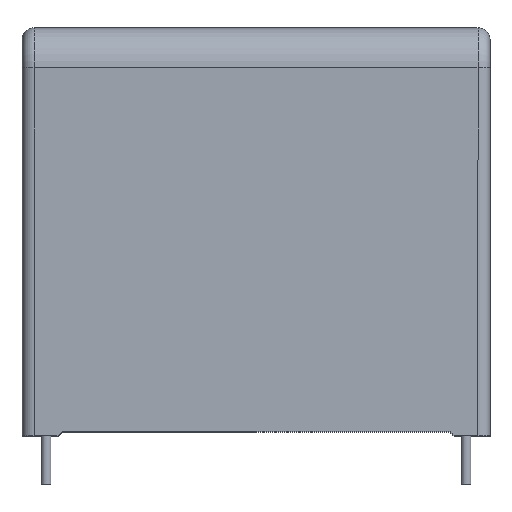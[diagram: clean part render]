
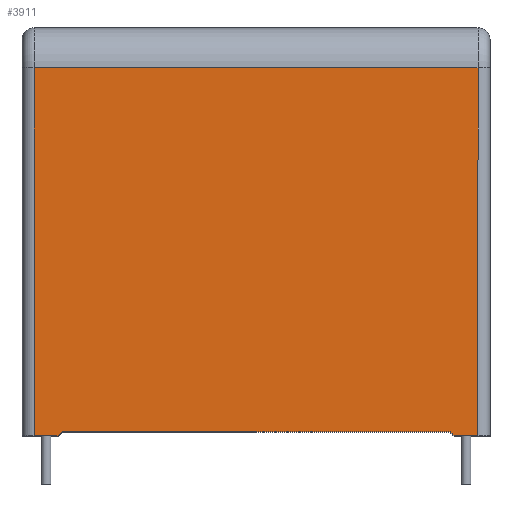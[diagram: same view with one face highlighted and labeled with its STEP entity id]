
A CAD part, top view. The second image highlights one B-rep face of the part: STEP entity #3911.
In plain terms, the highlighted planar face has unit normal (0, 0, 1).
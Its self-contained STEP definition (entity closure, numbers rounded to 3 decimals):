
#35 = DIRECTION ( 'NONE',  ( 0., -1., 0. ) ) ;
#73 = VERTEX_POINT ( 'NONE', #2864 ) ;
#176 = CARTESIAN_POINT ( 'NONE',  ( 24.25, 0.5, 18. ) ) ;
#190 = EDGE_LOOP ( 'NONE', ( #2507, #2511, #2521, #2529, #2534, #2537, #2552, #2555 ) ) ;
#358 = LINE ( 'NONE', #2895, #2072 ) ;
#410 = VECTOR ( 'NONE', #623, 1000. ) ;
#515 = LINE ( 'NONE', #2331, #410 ) ;
#623 = DIRECTION ( 'NONE',  ( 0., 1., 0. ) ) ;
#682 = LINE ( 'NONE', #4108, #4016 ) ;
#715 = VERTEX_POINT ( 'NONE', #3802 ) ;
#832 = VECTOR ( 'NONE', #2572, 1000. ) ;
#845 = VERTEX_POINT ( 'NONE', #3605 ) ;
#894 = PLANE ( 'NONE',  #3893 ) ;
#908 = VERTEX_POINT ( 'NONE', #1593 ) ;
#960 = CARTESIAN_POINT ( 'NONE',  ( 27.75, 46., 18. ) ) ;
#1100 = VECTOR ( 'NONE', #35, 1000. ) ;
#1329 = DIRECTION ( 'NONE',  ( -0.707, -0.707, 0. ) ) ;
#1473 = VERTEX_POINT ( 'NONE', #960 ) ;
#1588 = DIRECTION ( 'NONE',  ( -1., 0., 0. ) ) ;
#1593 = CARTESIAN_POINT ( 'NONE',  ( 24.75, 0., 18. ) ) ;
#1597 = LINE ( 'NONE', #2373, #3330 ) ;
#1613 = VERTEX_POINT ( 'NONE', #2470 ) ;
#1793 = VECTOR ( 'NONE', #3068, 1000. ) ;
#2031 = VERTEX_POINT ( 'NONE', #3714 ) ;
#2058 = EDGE_CURVE ( 'NONE', #715, #73, #1597, .T. ) ;
#2072 = VECTOR ( 'NONE', #2201, 1000. ) ;
#2201 = DIRECTION ( 'NONE',  ( -1., 0., 0. ) ) ;
#2292 = CARTESIAN_POINT ( 'NONE',  ( 27.75, 0., 18. ) ) ;
#2297 = EDGE_CURVE ( 'NONE', #845, #73, #2564, .T. ) ;
#2331 = CARTESIAN_POINT ( 'NONE',  ( 27.75, 51., 18. ) ) ;
#2373 = CARTESIAN_POINT ( 'NONE',  ( -24.75, 0., 18. ) ) ;
#2470 = CARTESIAN_POINT ( 'NONE',  ( -27.75, 46., 18. ) ) ;
#2507 = ORIENTED_EDGE ( 'NONE', *, *, #3667, .F. ) ;
#2511 = ORIENTED_EDGE ( 'NONE', *, *, #3450, .F. ) ;
#2521 = ORIENTED_EDGE ( 'NONE', *, *, #2670, .T. ) ;
#2529 = ORIENTED_EDGE ( 'NONE', *, *, #2994, .T. ) ;
#2532 = EDGE_CURVE ( 'NONE', #1613, #845, #2833, .T. ) ;
#2534 = ORIENTED_EDGE ( 'NONE', *, *, #2753, .T. ) ;
#2537 = ORIENTED_EDGE ( 'NONE', *, *, #2532, .T. ) ;
#2552 = ORIENTED_EDGE ( 'NONE', *, *, #2297, .T. ) ;
#2555 = ORIENTED_EDGE ( 'NONE', *, *, #2058, .F. ) ;
#2564 = LINE ( 'NONE', #3925, #3378 ) ;
#2572 = DIRECTION ( 'NONE',  ( -0.707, 0.707, 0. ) ) ;
#2659 = FACE_OUTER_BOUND ( 'NONE', #190, .T. ) ;
#2662 = LINE ( 'NONE', #176, #832 ) ;
#2670 = EDGE_CURVE ( 'NONE', #908, #2886, #682, .T. ) ;
#2715 = CARTESIAN_POINT ( 'NONE',  ( -24.25, 0.5, 18. ) ) ;
#2753 = EDGE_CURVE ( 'NONE', #1473, #1613, #358, .T. ) ;
#2803 = CARTESIAN_POINT ( 'NONE',  ( -27.75, 51., 18. ) ) ;
#2823 = LINE ( 'NONE', #2715, #1793 ) ;
#2833 = LINE ( 'NONE', #2803, #1100 ) ;
#2864 = CARTESIAN_POINT ( 'NONE',  ( -24.75, 0., 18. ) ) ;
#2886 = VERTEX_POINT ( 'NONE', #2292 ) ;
#2895 = CARTESIAN_POINT ( 'NONE',  ( -29.25, 46., 18. ) ) ;
#2994 = EDGE_CURVE ( 'NONE', #2886, #1473, #515, .T. ) ;
#3068 = DIRECTION ( 'NONE',  ( -1., 0., 0. ) ) ;
#3308 = CARTESIAN_POINT ( 'NONE',  ( -29.25, 51., 18. ) ) ;
#3330 = VECTOR ( 'NONE', #1329, 1000. ) ;
#3378 = VECTOR ( 'NONE', #3656, 1000. ) ;
#3450 = EDGE_CURVE ( 'NONE', #908, #2031, #2662, .T. ) ;
#3605 = CARTESIAN_POINT ( 'NONE',  ( -27.75, 0., 18. ) ) ;
#3640 = DIRECTION ( 'NONE',  ( 0., 0., -1. ) ) ;
#3656 = DIRECTION ( 'NONE',  ( 1., 0., 0. ) ) ;
#3667 = EDGE_CURVE ( 'NONE', #2031, #715, #2823, .T. ) ;
#3714 = CARTESIAN_POINT ( 'NONE',  ( 24.25, 0.5, 18. ) ) ;
#3802 = CARTESIAN_POINT ( 'NONE',  ( -24.25, 0.5, 18. ) ) ;
#3839 = DIRECTION ( 'NONE',  ( 1., 0., 0. ) ) ;
#3893 = AXIS2_PLACEMENT_3D ( 'NONE', #3308, #3640, #1588 ) ;
#3911 = ADVANCED_FACE ( 'NONE', ( #2659 ), #894, .F. ) ;
#3925 = CARTESIAN_POINT ( 'NONE',  ( -29.25, 0., 18. ) ) ;
#4016 = VECTOR ( 'NONE', #3839, 1000. ) ;
#4108 = CARTESIAN_POINT ( 'NONE',  ( -29.25, 0., 18. ) ) ;
